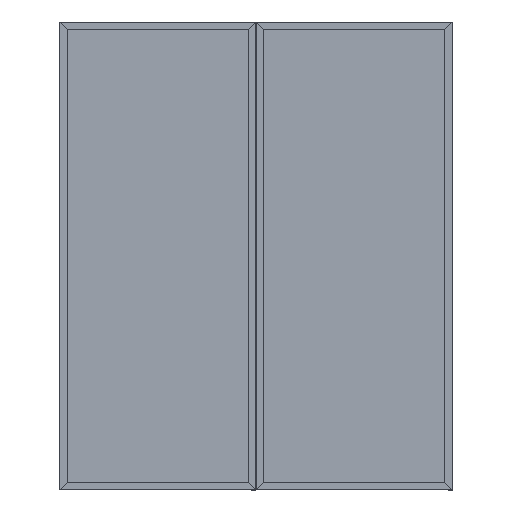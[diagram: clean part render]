
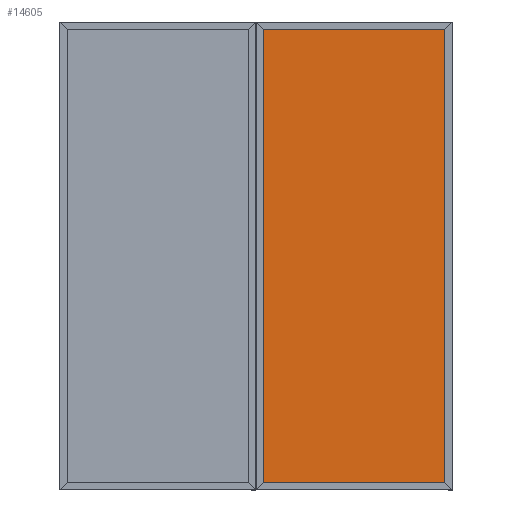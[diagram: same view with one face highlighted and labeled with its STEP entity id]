
A CAD part, top view. The second image highlights one B-rep face of the part: STEP entity #14605.
In plain terms, the highlighted planar face has unit normal (0, 0, 1).
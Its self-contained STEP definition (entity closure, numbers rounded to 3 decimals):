
#988 = EDGE_CURVE ( 'NONE', #28640, #28349, #15224, .T. ) ;
#1771 = FACE_OUTER_BOUND ( 'NONE', #32002, .T. ) ;
#2082 = VERTEX_POINT ( 'NONE', #10883 ) ;
#2891 = VECTOR ( 'NONE', #3352, 1000. ) ;
#3352 = DIRECTION ( 'NONE',  ( 0., 1., 0. ) ) ;
#3893 = DIRECTION ( 'NONE',  ( 0., 0., -1. ) ) ;
#4046 = DIRECTION ( 'NONE',  ( -1., 0., 0. ) ) ;
#4888 = VERTEX_POINT ( 'NONE', #9567 ) ;
#5285 = LINE ( 'NONE', #24628, #16423 ) ;
#6961 = PLANE ( 'NONE',  #25871 ) ;
#9567 = CARTESIAN_POINT ( 'NONE',  ( -465.07, -1162.2, -13.25 ) ) ;
#10742 = CARTESIAN_POINT ( 'NONE',  ( 465.07, 1162.2, -13.25 ) ) ;
#10883 = CARTESIAN_POINT ( 'NONE',  ( -465.07, 1162.2, -13.25 ) ) ;
#12903 = EDGE_CURVE ( 'NONE', #28640, #4888, #31867, .T. ) ;
#13318 = ORIENTED_EDGE ( 'NONE', *, *, #16493, .T. ) ;
#13735 = ORIENTED_EDGE ( 'NONE', *, *, #14579, .F. ) ;
#14284 = CARTESIAN_POINT ( 'NONE',  ( -465.07, 0., -13.25 ) ) ;
#14579 = EDGE_CURVE ( 'NONE', #4888, #2082, #31678, .T. ) ;
#14605 = ADVANCED_FACE ( 'NONE', ( #1771 ), #6961, .F. ) ;
#14969 = VECTOR ( 'NONE', #16405, 1000. ) ;
#15224 = LINE ( 'NONE', #23337, #2891 ) ;
#16405 = DIRECTION ( 'NONE',  ( 0., 1., 0. ) ) ;
#16423 = VECTOR ( 'NONE', #22346, 1000. ) ;
#16493 = EDGE_CURVE ( 'NONE', #28349, #2082, #5285, .T. ) ;
#17219 = DIRECTION ( 'NONE',  ( -1., 0., 0. ) ) ;
#17693 = ORIENTED_EDGE ( 'NONE', *, *, #988, .T. ) ;
#18168 = CARTESIAN_POINT ( 'NONE',  ( 465.07, -1162.2, -13.25 ) ) ;
#18836 = CARTESIAN_POINT ( 'NONE',  ( 0., 0., -13.25 ) ) ;
#19215 = VECTOR ( 'NONE', #17219, 1000. ) ;
#19820 = CARTESIAN_POINT ( 'NONE',  ( 0., -1162.2, -13.25 ) ) ;
#22346 = DIRECTION ( 'NONE',  ( -1., 0., 0. ) ) ;
#23337 = CARTESIAN_POINT ( 'NONE',  ( 465.07, 0., -13.25 ) ) ;
#24628 = CARTESIAN_POINT ( 'NONE',  ( 0., 1162.2, -13.25 ) ) ;
#25871 = AXIS2_PLACEMENT_3D ( 'NONE', #18836, #3893, #4046 ) ;
#26311 = ORIENTED_EDGE ( 'NONE', *, *, #12903, .F. ) ;
#28349 = VERTEX_POINT ( 'NONE', #10742 ) ;
#28640 = VERTEX_POINT ( 'NONE', #18168 ) ;
#31678 = LINE ( 'NONE', #14284, #14969 ) ;
#31867 = LINE ( 'NONE', #19820, #19215 ) ;
#32002 = EDGE_LOOP ( 'NONE', ( #13735, #26311, #17693, #13318 ) ) ;
